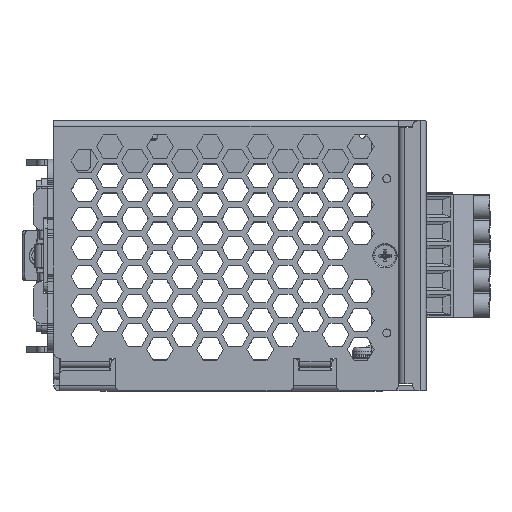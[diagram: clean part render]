
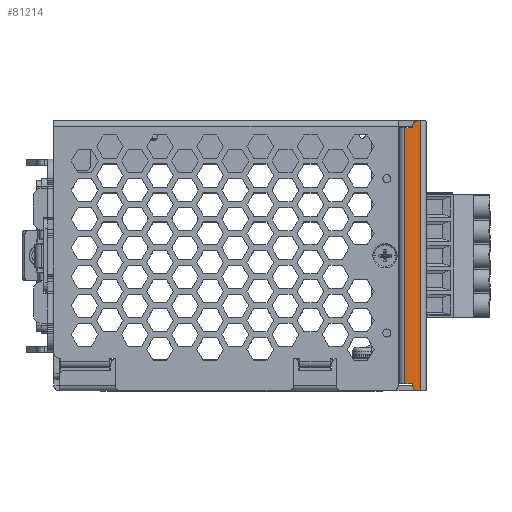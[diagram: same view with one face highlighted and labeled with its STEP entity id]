
A CAD part, front view. The second image highlights one B-rep face of the part: STEP entity #81214.
In plain terms, the highlighted planar face has unit normal (0, -1, 0).
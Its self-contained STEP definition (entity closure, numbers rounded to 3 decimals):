
#79498=DIRECTION('',(0.,0.,-1.));
#79499=VECTOR('',#79498,0.4);
#79500=CARTESIAN_POINT('',(-35.,-1.5,0.));
#79501=LINE('',#79500,#79499);
#79502=CARTESIAN_POINT('',(33.4,-1.5,-0.4));
#79503=DIRECTION('',(0.,-1.,0.));
#79504=DIRECTION('',(0.,0.,-1.));
#79505=AXIS2_PLACEMENT_3D('',#79502,#79503,#79504);
#79507=DIRECTION('',(-1.,0.,0.));
#79508=VECTOR('',#79507,0.2);
#79509=CARTESIAN_POINT('',(33.4,-1.5,-2.));
#79510=LINE('',#79509,#79508);
#79511=DIRECTION('',(0.,0.,1.));
#79512=VECTOR('',#79511,2.);
#79513=CARTESIAN_POINT('',(33.2,-1.5,-4.));
#79514=LINE('',#79513,#79512);
#79515=DIRECTION('',(-1.,0.,0.));
#79516=VECTOR('',#79515,66.4);
#79517=CARTESIAN_POINT('',(33.2,-1.5,-4.));
#79518=LINE('',#79517,#79516);
#79519=DIRECTION('',(0.,0.,1.));
#79520=VECTOR('',#79519,2.);
#79521=CARTESIAN_POINT('',(-33.2,-1.5,-4.));
#79522=LINE('',#79521,#79520);
#79523=DIRECTION('',(1.,0.,0.));
#79524=VECTOR('',#79523,0.2);
#79525=CARTESIAN_POINT('',(-33.4,-1.5,-2.));
#79526=LINE('',#79525,#79524);
#79527=CARTESIAN_POINT('',(-33.4,-1.5,-0.4));
#79528=DIRECTION('',(0.,-1.,0.));
#79529=DIRECTION('',(-1.,0.,0.));
#79530=AXIS2_PLACEMENT_3D('',#79527,#79528,#79529);
#79532=DIRECTION('',(-1.,0.,0.));
#79533=VECTOR('',#79532,70.);
#79534=CARTESIAN_POINT('',(35.,-1.5,0.));
#79535=LINE('',#79534,#79533);
#79570=DIRECTION('',(0.,0.,-1.));
#79571=VECTOR('',#79570,0.4);
#79572=CARTESIAN_POINT('',(35.,-1.5,0.));
#79573=LINE('',#79572,#79571);
#80755=CARTESIAN_POINT('',(-33.2,-1.5,-2.));
#80757=VERTEX_POINT('',#80755);
#80763=CARTESIAN_POINT('',(33.2,-1.5,-2.));
#80765=VERTEX_POINT('',#80763);
#80915=CARTESIAN_POINT('',(-33.2,-1.5,-4.));
#80917=VERTEX_POINT('',#80915);
#80918=CARTESIAN_POINT('',(33.2,-1.5,-4.));
#80919=VERTEX_POINT('',#80918);
#80922=CARTESIAN_POINT('',(-35.,-1.5,0.));
#80924=VERTEX_POINT('',#80922);
#80928=CARTESIAN_POINT('',(35.,-1.5,0.));
#80929=VERTEX_POINT('',#80928);
#80990=CARTESIAN_POINT('',(33.4,-1.5,-2.));
#80991=VERTEX_POINT('',#80990);
#80992=CARTESIAN_POINT('',(35.,-1.5,-0.4));
#80993=VERTEX_POINT('',#80992);
#81002=CARTESIAN_POINT('',(-35.,-1.5,-0.4));
#81003=CARTESIAN_POINT('',(-33.4,-1.5,-2.));
#81004=VERTEX_POINT('',#81002);
#81005=VERTEX_POINT('',#81003);
#81189=CARTESIAN_POINT('',(-35.,-1.5,1.5));
#81190=DIRECTION('',(0.,-1.,0.));
#81191=DIRECTION('',(0.,0.,-1.));
#81192=AXIS2_PLACEMENT_3D('',#81189,#81190,#81191);
#81193=PLANE('',#81192);
#81195=ORIENTED_EDGE('',*,*,#81194,.F.);
#81197=ORIENTED_EDGE('',*,*,#81196,.T.);
#81199=ORIENTED_EDGE('',*,*,#81198,.F.);
#81201=ORIENTED_EDGE('',*,*,#81200,.T.);
#81203=ORIENTED_EDGE('',*,*,#81202,.T.);
#81205=ORIENTED_EDGE('',*,*,#81204,.F.);
#81206=ORIENTED_EDGE('',*,*,#81179,.F.);
#81207=ORIENTED_EDGE('',*,*,#81169,.F.);
#81209=ORIENTED_EDGE('',*,*,#81208,.F.);
#81211=ORIENTED_EDGE('',*,*,#81210,.T.);
#81212=EDGE_LOOP('',(#81195,#81197,#81199,#81201,#81203,#81205,#81206,#81207,
#81209,#81211));
#81213=FACE_OUTER_BOUND('',#81212,.F.);
#79506=CIRCLE('',#79505,1.6);
#79531=CIRCLE('',#79530,1.6);
#81169=EDGE_CURVE('',#80924,#81004,#79501,.T.);
#81179=EDGE_CURVE('',#81004,#81005,#79531,.T.);
#81194=EDGE_CURVE('',#80991,#80993,#79506,.T.);
#81196=EDGE_CURVE('',#80991,#80765,#79510,.T.);
#81198=EDGE_CURVE('',#80919,#80765,#79514,.T.);
#81200=EDGE_CURVE('',#80919,#80917,#79518,.T.);
#81202=EDGE_CURVE('',#80917,#80757,#79522,.T.);
#81204=EDGE_CURVE('',#81005,#80757,#79526,.T.);
#81208=EDGE_CURVE('',#80929,#80924,#79535,.T.);
#81210=EDGE_CURVE('',#80929,#80993,#79573,.T.);
#81214=ADVANCED_FACE('',(#81213),#81193,.T.);
